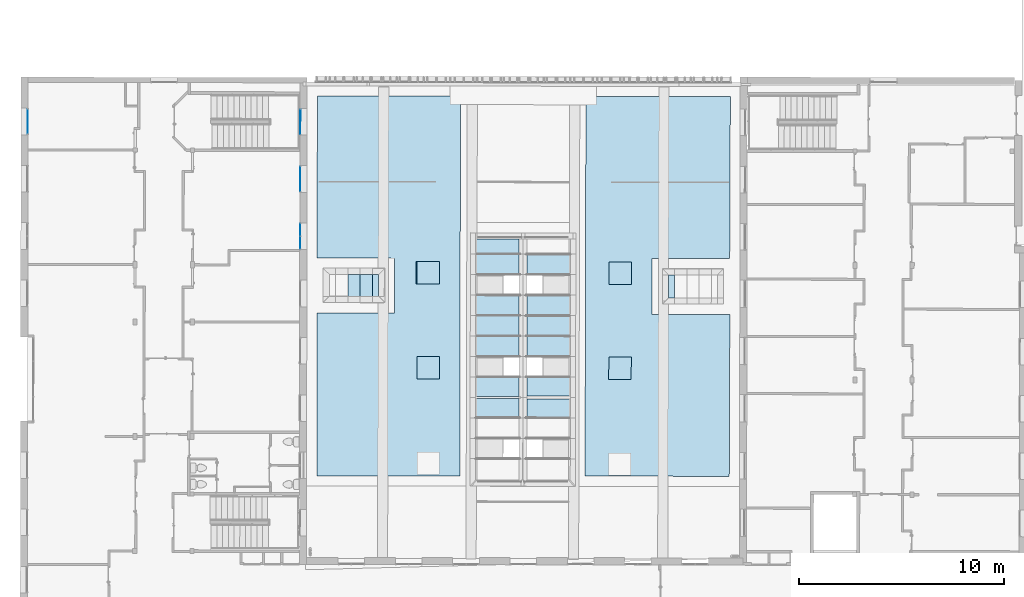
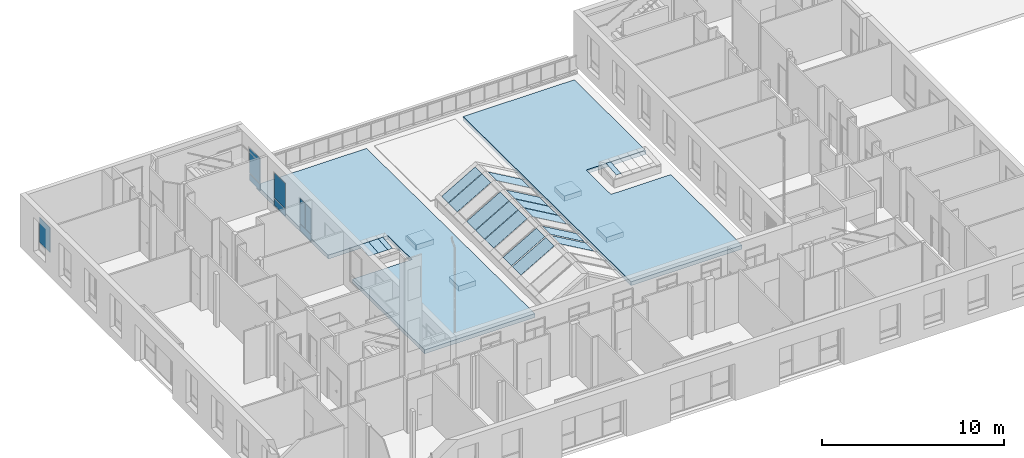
# One storey, part 36 of 101: 25 plates, 7 slabs, 14 elements without a shape of their own.
"""IFC2X3 building model written with IfcOpenShell, lengths in metres."""

import ifcopenshell
import ifcopenshell.guid

model = None  # the IFC model being written
_history = None  # IfcOwnerHistory: only IFC2X3 demands one
_inside = {}  # id of a spatial element -> (the spatial element, [elements in it])
_under = {}  # id of a project, library or spatial element -> (it, [spatial elements below it])
_declared = {}  # id of a project -> (the project, [libraries it declares])
_typed = {}  # id of a type object -> (the type object, [elements of that type])
_made_of = {}  # id of a material, layer set ... -> (it, [elements and type objects made of it])


def new_model(schema):
    """Start an empty IFC model of exactly this schema.

    Asked for "IFC4X3", IfcOpenShell would pick the latest addendum, in which some entities
    have other attributes; the version numbers below select the first issue.
    IFC2X3 requires an IfcOwnerHistory on every rooted entity: one is made here for all.
    """
    global model, _history
    if schema == "IFC4X3":
        model = ifcopenshell.file(schema_version=(4, 3, 0, 0))
    else:
        model = ifcopenshell.file(schema=schema)
    _inside.clear()
    _under.clear()
    _declared.clear()
    _typed.clear()
    _made_of.clear()
    _history = None
    if model.schema == "IFC2X3":
        org = make("IfcOrganization", Name="unknown")
        user = make(
            "IfcPersonAndOrganization",
            ThePerson=make("IfcPerson", FamilyName="unknown"),
            TheOrganization=org,
        )
        app = make(
            "IfcApplication",
            ApplicationDeveloper=org,
            Version="unknown",
            ApplicationFullName="unknown",
            ApplicationIdentifier="unknown",
        )
        _history = make(
            "IfcOwnerHistory",
            OwningUser=user,
            OwningApplication=app,
            ChangeAction="ADDED",
            CreationDate=0,
        )
    return model


def make(cls, **values):
    """One entity of the class cls with the attributes given. An attribute that is None is left unset."""
    return model.create_entity(
        cls, **{name: value for name, value in values.items() if value is not None}
    )


def entity(cls, *values):
    """Any entity or typed value of the class cls, its attributes in the order of the schema. None: left unset."""
    e = model.create_entity(cls)
    for i, value in enumerate(values):
        if value is not None:
            e[i] = value
    return e


def rooted(cls, **values):
    """An entity with a GlobalId (a new one), such as an element, a storey or a relation."""
    return make(cls, GlobalId=ifcopenshell.guid.new(), OwnerHistory=_history, **values)


def si_unit(unit_type, name, prefix=None):
    """IfcSIUnit, for example si_unit("LENGTHUNIT", "METRE", prefix="MILLI")."""
    return make("IfcSIUnit", UnitType=unit_type, Prefix=prefix, Name=name)


def converted_unit(unit_type, name, factor, base, dimensions=None, offset=None):
    """IfcConversionBasedUnit, such as the inch: factor (a typed value) times the base unit."""
    return make(
        "IfcConversionBasedUnit"
        if offset is None
        else "IfcConversionBasedUnitWithOffset",
        ConversionOffset=offset,
        Dimensions=None
        if dimensions is None
        else entity("IfcDimensionalExponents", *dimensions),
        UnitType=unit_type,
        Name=name,
        ConversionFactor=make(
            "IfcMeasureWithUnit", ValueComponent=factor, UnitComponent=base
        ),
    )


def derived_unit(unit_type, elements):
    """IfcDerivedUnit: a product of units, each with its exponent."""
    return make(
        "IfcDerivedUnit",
        Elements=[
            make("IfcDerivedUnitElement", Unit=unit, Exponent=power)
            for unit, power in elements
        ],
        UnitType=unit_type,
    )


def assignment(units):
    """IfcUnitAssignment: the units of a project."""
    return None if units is None else make("IfcUnitAssignment", Units=units)


def point(xyz):
    """IfcCartesianPoint."""
    return None if xyz is None else make("IfcCartesianPoint", Coordinates=xyz)


def direction(xyz):
    """IfcDirection."""
    return None if xyz is None else make("IfcDirection", DirectionRatios=xyz)


def frame(location, z_axis=None, x_axis=None):
    """IfcAxis2Placement3D, a coordinate frame: its origin and axes. An axis left out is left unset."""
    return make(
        "IfcAxis2Placement3D",
        Location=point(location),
        Axis=direction(z_axis),
        RefDirection=direction(x_axis),
    )


def frame_2d(location, x_axis=None):
    """IfcAxis2Placement2D, a coordinate frame in the plane: its origin and x axis."""
    return make(
        "IfcAxis2Placement2D", Location=point(location), RefDirection=direction(x_axis)
    )


def origin():
    """The frame at (0, 0, 0) with its axes left unset."""
    return frame((0.0, 0.0, 0.0))


def place(relative_to, where):
    """IfcLocalPlacement: puts the frame where relative to a parent placement (None: the world)."""
    return make(
        "IfcLocalPlacement", PlacementRelTo=relative_to, RelativePlacement=where
    )


def context(
    kind, dimensions, precision=None, world=None, true_north=None, identifier=None
):
    """IfcGeometricRepresentationContext, for example the 3D "Model" context."""
    return make(
        "IfcGeometricRepresentationContext",
        ContextIdentifier=identifier,
        ContextType=kind,
        CoordinateSpaceDimension=dimensions,
        Precision=precision,
        WorldCoordinateSystem=world,
        TrueNorth=true_north,
    )


def subcontext(parent, identifier, kind, view, scale=None):
    """IfcGeometricRepresentationSubContext, for example "Body" below "Model"."""
    return make(
        "IfcGeometricRepresentationSubContext",
        ContextIdentifier=identifier,
        ContextType=kind,
        ParentContext=parent,
        TargetScale=scale,
        TargetView=view,
    )


def project(units=None, contexts=None):
    """IfcProject with its units and contexts."""
    return rooted(
        "IfcProject",
        Name="project",
        RepresentationContexts=contexts,
        UnitsInContext=assignment(units),
    )


def spatial(cls, under=None, at=None, **own):
    """A site, building, storey or space (cls), placed at a placement, below another one or the project."""
    s = rooted(cls, ObjectPlacement=at, **own)
    if under is not None:
        _under.setdefault(under.id(), (under, []))[1].append(s)
    return s


def polyline(points):
    """IfcPolyline through the points."""
    return make("IfcPolyline", Points=[point(p) for p in points])


def profile(cls, at=None, kind="AREA", **sizes):
    """A parametric profile (cls). Its sizes go by their IFC names, for example OverallWidth=200.0."""
    return make(cls, ProfileType=kind, Position=at, **sizes)


def rectangle(**sizes):
    """IfcRectangleProfileDef."""
    return profile("IfcRectangleProfileDef", **sizes)


def outline(outer, holes=None, kind="AREA"):
    """IfcArbitraryClosedProfileDef: a profile drawn as a closed curve; with holes, ...WithVoids."""
    if holes is None:
        return make("IfcArbitraryClosedProfileDef", ProfileType=kind, OuterCurve=outer)
    return make(
        "IfcArbitraryProfileDefWithVoids",
        ProfileType=kind,
        OuterCurve=outer,
        InnerCurves=holes,
    )


def extrude(swept, where, along, depth):
    """IfcExtrudedAreaSolid: the profile swept, set in the frame where, extruded along a direction by depth."""
    return make(
        "IfcExtrudedAreaSolid",
        SweptArea=swept,
        Position=where,
        ExtrudedDirection=direction(along),
        Depth=depth,
    )


def shape(context_of_items, identifier, shape_type, items):
    """IfcShapeRepresentation: the items that make up one representation, for example the "Body"."""
    return make(
        "IfcShapeRepresentation",
        ContextOfItems=context_of_items,
        RepresentationIdentifier=identifier,
        RepresentationType=shape_type,
        Items=items,
    )


def source(mapping_origin, context_of_items, identifier, shape_type, items):
    """IfcRepresentationMap: a shape defined once, which mapped items show again and again."""
    return make(
        "IfcRepresentationMap",
        MappingOrigin=mapping_origin,
        MappedRepresentation=shape(context_of_items, identifier, shape_type, items),
    )


def transform(
    local_origin,
    x_axis=None,
    y_axis=None,
    z_axis=None,
    scale=None,
    scale2=None,
    scale3=None,
    uniform=True,
):
    """IfcCartesianTransformationOperator3D, or its non-uniform kind. x_axis, y_axis, z_axis: its Axis1, 2, 3."""
    if uniform:
        return make(
            "IfcCartesianTransformationOperator3D",
            Axis1=direction(x_axis),
            Axis2=direction(y_axis),
            LocalOrigin=point(local_origin),
            Scale=scale,
            Axis3=direction(z_axis),
        )
    return make(
        "IfcCartesianTransformationOperator3DnonUniform",
        Axis1=direction(x_axis),
        Axis2=direction(y_axis),
        LocalOrigin=point(local_origin),
        Scale=scale,
        Axis3=direction(z_axis),
        Scale2=scale2,
        Scale3=scale3,
    )


def mapped(mapping_source, mapping_target):
    """IfcMappedItem: shows the shape of a source again, moved by a transform."""
    return make(
        "IfcMappedItem", MappingSource=mapping_source, MappingTarget=mapping_target
    )


def material(Name=None, Category=None):
    """IfcMaterial."""
    return make("IfcMaterial", Name=Name, Category=Category)


def layer(
    of_material, thickness, ventilated=None, Name=None, Category=None, Priority=None
):
    """IfcMaterialLayer: one layer of a wall or slab, of a material (None: an air gap)."""
    return make(
        "IfcMaterialLayer",
        Material=of_material,
        LayerThickness=thickness,
        IsVentilated=ventilated,
        Name=Name,
        Category=Category,
        Priority=Priority,
    )


def layer_set(layers, Name=None):
    """IfcMaterialLayerSet."""
    return make("IfcMaterialLayerSet", MaterialLayers=layers, LayerSetName=Name)


def made_of(thing, what):
    """Note that an element or type object is made of a material, layer set ...; save() writes the relation."""
    if what is not None:
        _made_of.setdefault(what.id(), (what, []))[1].append(thing)
    return thing


def type_object(cls, material=None, **own):
    """A type object (cls), such as IfcWallType, which elements share."""
    return made_of(rooted(cls, **own), material)


def type_shapes(of_type, sources):
    """Give a type object the sources (RepresentationMaps) that its elements show as mapped items."""
    of_type.RepresentationMaps = sources


def element(
    cls,
    number,
    at=None,
    inside=None,
    cuts=None,
    type_object=None,
    material=None,
    context=None,
    identifier="Body",
    shape_type=None,
    held_by="IfcProductDefinitionShape",
    body=None,
    shapes=None,
    **own,
):
    """One element of the class cls, such as IfcWall. Its Tag is "e" and its number.

    at: its placement. inside: the storey or other place that contains it. cuts: it is an
    opening in that element (IfcRelVoidsElement). A single representation is given by context,
    identifier, shape_type and body (its items); several are given by shapes. held_by: the class
    of the entity that holds the representations. save() writes the other relations.
    """
    e = rooted(cls, Tag="e%d" % number, ObjectPlacement=at, **own)
    if body is not None:
        shapes = [shape(context, identifier, shape_type, body)]
    if shapes is not None:
        e.Representation = make(held_by, Representations=shapes)
    if inside is not None:
        _inside.setdefault(inside.id(), (inside, []))[1].append(e)
    if cuts is not None:
        rooted(
            "IfcRelVoidsElement", RelatingBuildingElement=cuts, RelatedOpeningElement=e
        )
    if type_object is not None:
        _typed.setdefault(type_object.id(), (type_object, []))[1].append(e)
    return made_of(e, material)


def aggregate(whole, parts):
    """IfcRelAggregates: a whole, such as a stair, and the parts it consists of."""
    return rooted("IfcRelAggregates", RelatingObject=whole, RelatedObjects=parts)


def save(model, path):
    """Write the relations noted so far, then the file.

    IfcRelAggregates (storeys below a building ...), IfcRelContainedInSpatialStructure (elements
    in a storey), IfcRelDefinesByType, IfcRelAssociatesMaterial and IfcRelDeclares: one each for
    every whole, place, type object, material and project.
    """
    for whole, parts in _under.values():
        aggregate(whole, parts)
    for where, things in _inside.values():
        rooted(
            "IfcRelContainedInSpatialStructure",
            RelatedElements=things,
            RelatingStructure=where,
        )
    for kind, things in _typed.values():
        rooted("IfcRelDefinesByType", RelatedObjects=things, RelatingType=kind)
    for what, things in _made_of.values():
        rooted("IfcRelAssociatesMaterial", RelatedObjects=things, RelatingMaterial=what)
    for by, libraries in _declared.values():
        rooted("IfcRelDeclares", RelatingContext=by, RelatedDefinitions=libraries)
    model.write(path)


model = new_model("IFC2X3")

# Units and contexts
model_context = context("Model", 3, precision=1e-05, world=origin(), true_north=direction((6.123233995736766e-17, 1.0)))
body_context = subcontext(model_context, "Body", "Model", "MODEL_VIEW")
ifc_project = project(units=[si_unit("LENGTHUNIT", "METRE"), si_unit("AREAUNIT", "SQUARE_METRE"), converted_unit("PLANEANGLEUNIT", "DEGREE", entity("IfcPlaneAngleMeasure", 0.017453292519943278), si_unit("PLANEANGLEUNIT", "RADIAN"), dimensions=[0, 0, 0, 0, 0, 0, 0]), derived_unit("THERMALTRANSMITTANCEUNIT", [(si_unit("MASSUNIT", "GRAM", prefix="KILO"), 1), (si_unit("THERMODYNAMICTEMPERATUREUNIT", "KELVIN"), -1), (si_unit("TIMEUNIT", "SECOND"), -3)])], contexts=[model_context])

# Site, building, storey
site_placement = place(None, frame((1253.6752467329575, 2072.143113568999, 91.49999999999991), z_axis=(0.0, 0.0, 1.0), x_axis=(0.7237211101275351, 0.6900925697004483, 0.0)))
site = spatial("IfcSite", under=ifc_project, at=site_placement, Name="Surface", CompositionType="ELEMENT")
building_placement = place(site_placement, origin())
building = spatial("IfcBuilding", under=site, at=building_placement, CompositionType="ELEMENT")
storey_placement = place(building_placement, origin())
storey = spatial("IfcBuildingStorey", under=building, at=storey_placement, Name="0- Rdc", CompositionType="ELEMENT", Elevation=-5.764692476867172e-13)

# Curtain wall, plate
curtain_wall_type_1 = type_object("IfcCurtainWallType", Name="Mur-rideau:Menuiserie Ext 1F+1OB VERTIC", PredefinedType="NOTDEFINED")
curtain_wall_1_placement = place(storey_placement, origin())
curtain_wall_1 = element("IfcCurtainWall", 1, at=curtain_wall_1_placement, inside=storey, type_object=curtain_wall_type_1, Name="Mur-rideau:Menuiserie Ext 1F+1OB VERTIC", ObjectType="Mur-rideau:Menuiserie Ext 1F+1OB VERTIC")
ifc_material_1 = material(Name="Verre")
ifc_layer_1 = layer(ifc_material_1, 0.01)
ifc_layer_set_1 = layer_set([ifc_layer_1], Name="Panneau système:Vitré")
plate_type_1 = type_object("IfcPlateType", Name="Panneau système:Vitré", PredefinedType="CURTAIN_PANEL", material=ifc_layer_set_1)
shared_shape_1 = source(origin(), body_context, "Body", "SweptSolid", [
    extrude(rectangle(XDim=0.01, YDim=1.199695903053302, at=frame_2d((0.0, -4.163336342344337e-15), x_axis=(1.0, 0.0))), frame((0.0, 0.0, 0.0), z_axis=(0.0, 0.0, 1.0), x_axis=(0.0, 1.0, 0.0)), (0.0, 0.0, 1.0), 1.6849999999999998),
])
type_shapes(plate_type_1, [shared_shape_1])
plate_1_placement = place(curtain_wall_1_placement, frame((164.91515937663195, 25.933899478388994, 1.1649999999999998), z_axis=(0.0, 0.0, 1.0), x_axis=(0.6911544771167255, 0.7227070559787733, 0.0)))
plate_1 = element("IfcPlate", 2, at=plate_1_placement, type_object=plate_type_1, material=ifc_material_1, Name="Panneau système:Vitré", ObjectType="Panneau système:Vitré", context=body_context, shape_type="MappedRepresentation", body=[
    mapped(shared_shape_1, transform((0.0, 0.0, 0.0), scale=1.0)),
])
aggregate(curtain_wall_1, [plate_1])

curtain_wall_2_placement = place(storey_placement, origin())
curtain_wall_2 = element("IfcCurtainWall", 3, at=curtain_wall_2_placement, inside=storey, type_object=curtain_wall_type_1, Name="Mur-rideau:Menuiserie Ext 1F+1OB VERTIC", ObjectType="Mur-rideau:Menuiserie Ext 1F+1OB VERTIC")
plate_type_2 = type_object("IfcPlateType", Name="Panneau système:Vitré", PredefinedType="CURTAIN_PANEL", material=ifc_layer_set_1)
shared_shape_2 = source(origin(), body_context, "Body", "SweptSolid", [
    extrude(rectangle(XDim=0.01, YDim=1.199695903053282, at=frame_2d((0.0, 4.163336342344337e-15), x_axis=(1.0, 0.0))), frame((0.0, 0.0, 0.0), z_axis=(0.0, 0.0, 1.0), x_axis=(0.0, 1.0, 0.0)), (0.0, 0.0, 1.0), 0.44499999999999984),
])
type_shapes(plate_type_2, [shared_shape_2])
plate_2_placement = place(curtain_wall_2_placement, frame((174.55687420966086, 16.717488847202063, 0.6699999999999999), z_axis=(0.0, 0.0, 1.0), x_axis=(0.6909838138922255, 0.722870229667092, 0.0)))
plate_2 = element("IfcPlate", 4, at=plate_2_placement, type_object=plate_type_2, material=ifc_material_1, Name="Panneau système:Vitré", ObjectType="Panneau système:Vitré", context=body_context, shape_type="MappedRepresentation", body=[
    mapped(shared_shape_2, transform((0.0, 0.0, 0.0), scale=1.0)),
])

curtain_wall_3_placement = place(storey_placement, origin())
curtain_wall_3 = element("IfcCurtainWall", 5, at=curtain_wall_3_placement, inside=storey, type_object=curtain_wall_type_1, Name="Mur-rideau:Menuiserie Ext 1F+1OB VERTIC", ObjectType="Mur-rideau:Menuiserie Ext 1F+1OB VERTIC")
plate_3_placement = place(curtain_wall_3_placement, frame((172.62485809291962, 14.696317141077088, 0.6699999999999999), z_axis=(0.0, 0.0, 1.0), x_axis=(0.6909838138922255, 0.722870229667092, 0.0)))
plate_3 = element("IfcPlate", 6, at=plate_3_placement, type_object=plate_type_2, material=ifc_material_1, Name="Panneau système:Vitré", ObjectType="Panneau système:Vitré", context=body_context, shape_type="MappedRepresentation", body=[
    mapped(shared_shape_2, transform((0.0, 0.0, 0.0), scale=1.0)),
])

# Plate
plate_type_3 = type_object("IfcPlateType", Name="Panneau système:Vitré", PredefinedType="CURTAIN_PANEL", material=ifc_layer_set_1)
shared_shape_3 = source(origin(), body_context, "Body", "SweptSolid", [
    extrude(rectangle(XDim=0.01, YDim=1.199695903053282, at=frame_2d((0.0, 4.163336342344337e-15), x_axis=(1.0, 0.0))), frame((0.0, 0.0, 0.0), z_axis=(0.0, 0.0, 1.0), x_axis=(0.0, 1.0, 0.0)), (0.0, 0.0, 1.0), 1.6849999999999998),
])
type_shapes(plate_type_3, [shared_shape_3])
plate_4_placement = place(curtain_wall_2_placement, frame((174.55687420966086, 16.717488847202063, 1.1649999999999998), z_axis=(0.0, 0.0, 1.0), x_axis=(0.6909838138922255, 0.722870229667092, 0.0)))
plate_4 = element("IfcPlate", 7, at=plate_4_placement, type_object=plate_type_3, material=ifc_material_1, Name="Panneau système:Vitré", ObjectType="Panneau système:Vitré", context=body_context, shape_type="MappedRepresentation", body=[
    mapped(shared_shape_3, transform((0.0, 0.0, 0.0), scale=1.0)),
])

aggregate(curtain_wall_2, [plate_2, plate_4])

plate_5_placement = place(curtain_wall_3_placement, frame((172.62485809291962, 14.696317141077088, 1.1649999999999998), z_axis=(0.0, 0.0, 1.0), x_axis=(0.6909838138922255, 0.722870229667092, 0.0)))
plate_5 = element("IfcPlate", 8, at=plate_5_placement, type_object=plate_type_3, material=ifc_material_1, Name="Panneau système:Vitré", ObjectType="Panneau système:Vitré", context=body_context, shape_type="MappedRepresentation", body=[
    mapped(shared_shape_3, transform((0.0, 0.0, 0.0), scale=1.0)),
])

aggregate(curtain_wall_3, [plate_3, plate_5])

# Curtain wall, plates
curtain_wall_4_placement = place(storey_placement, origin())
curtain_wall_4 = element("IfcCurtainWall", 9, at=curtain_wall_4_placement, inside=storey, type_object=curtain_wall_type_1, Name="Mur-rideau:Menuiserie Ext 1F+1OB VERTIC", ObjectType="Mur-rideau:Menuiserie Ext 1F+1OB VERTIC")
plate_type_4 = type_object("IfcPlateType", Name="Panneau système:Vitré", PredefinedType="CURTAIN_PANEL", material=ifc_layer_set_1)
shared_shape_4 = source(origin(), body_context, "Body", "SweptSolid", [
    extrude(rectangle(XDim=0.44499999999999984, YDim=1.199695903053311, at=frame_2d((0.0, -9.603429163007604e-15), x_axis=(1.0, 0.0))), frame((0.0, -0.004999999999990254, 0.22249999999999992), z_axis=(0.0, 1.0, 0.0), x_axis=(0.0, 0.0, 1.0)), (0.0, 0.0, 1.0), 0.01),
])
type_shapes(plate_type_4, [shared_shape_4])
plate_6_placement = place(curtain_wall_4_placement, frame((170.6901034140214, 12.672280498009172, 0.6699999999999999), z_axis=(0.0, 0.0, 1.0), x_axis=(0.6909838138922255, 0.722870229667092, 0.0)))
plate_6 = element("IfcPlate", 10, at=plate_6_placement, type_object=plate_type_4, material=ifc_material_1, Name="Panneau système:Vitré", ObjectType="Panneau système:Vitré", context=body_context, shape_type="MappedRepresentation", body=[
    mapped(shared_shape_4, transform((0.0, 0.0, 0.0), scale=1.0)),
])
plate_type_5 = type_object("IfcPlateType", Name="Panneau système:Vitré", PredefinedType="CURTAIN_PANEL", material=ifc_layer_set_1)
shared_shape_5 = source(origin(), body_context, "Body", "SweptSolid", [
    extrude(rectangle(XDim=0.01, YDim=0.574847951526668, at=frame_2d((0.0, 3.3029134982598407e-15), x_axis=(1.0, 0.0))), frame((0.0, 0.0, 0.0), z_axis=(0.0, 0.0, 1.0), x_axis=(0.0, 1.0, 0.0)), (0.0, 0.0, 1.0), 1.6849999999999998),
])
type_shapes(plate_type_5, [shared_shape_5])
plate_7_placement = place(curtain_wall_4_placement, frame((170.4742235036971, 12.446438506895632, 1.1649999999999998), z_axis=(0.0, 0.0, 1.0), x_axis=(0.6909838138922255, 0.722870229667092, 0.0)))
plate_7 = element("IfcPlate", 11, at=plate_7_placement, type_object=plate_type_5, material=ifc_material_1, Name="Panneau système:Vitré", ObjectType="Panneau système:Vitré", context=body_context, shape_type="MappedRepresentation", body=[
    mapped(shared_shape_5, transform((0.0, 0.0, 0.0), scale=1.0)),
])
plate_8_placement = place(curtain_wall_4_placement, frame((170.9059833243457, 12.898122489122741, 1.1649999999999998), z_axis=(0.0, 0.0, 1.0), x_axis=(0.6909838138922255, 0.722870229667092, 0.0)))
plate_8 = element("IfcPlate", 12, at=plate_8_placement, type_object=plate_type_5, material=ifc_material_1, Name="Panneau système:Vitré", ObjectType="Panneau système:Vitré", context=body_context, shape_type="MappedRepresentation", body=[
    mapped(shared_shape_5, transform((0.0, 0.0, 0.0), scale=1.0)),
])
aggregate(curtain_wall_4, [plate_6, plate_7, plate_8])

# Roof, slab
ifc_material_2 = material(Name="OMD tranche")
ifc_layer_2 = layer(ifc_material_2, 0.35)
ifc_layer_set_2 = layer_set([ifc_layer_2], Name="Toit de base:toit terrasse 35")
roof_1_placement = place(storey_placement, frame((173.16801094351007, 6.319692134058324, -0.8818948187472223)))
roof_1 = element("IfcRoof", 13, at=roof_1_placement, inside=storey, material=ifc_layer_set_2, Name="Toit de base:toit terrasse 35", ObjectType="Toit de base:toit terrasse 35", ShapeType="NOTDEFINED")
type_product_1 = type_object("IfcTypeProduct", Name="Toit de base:toit terrasse 35")
slab_1_placement = place(roof_1_placement, origin())
slab_1 = element("IfcSlab", 14, at=slab_1_placement, type_object=type_product_1, material=ifc_layer_set_2, Name="Toit de base:toit terrasse 35", ObjectType="Toit de base:toit terrasse 35", PredefinedType="ROOF", context=body_context, shape_type="SweptSolid", body=[
    extrude(rectangle(XDim=1.100000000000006, YDim=1.099961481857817, at=frame_2d((0.0, 1.0824674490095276e-15), x_axis=(-0.7225099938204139, 0.6913604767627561))), frame((0.7776007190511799, 0.7775994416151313, 0.00489541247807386), z_axis=(0.006153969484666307, 0.006430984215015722, 0.9999603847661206), x_axis=(0.9999810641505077, -3.95768300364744e-05, -0.006153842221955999)), (-0.006153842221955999, -0.006431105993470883, 0.9999603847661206), 0.3500138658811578),
])
aggregate(roof_1, [slab_1])

roof_2_placement = place(storey_placement, frame((170.00112637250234, 2.918495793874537, -0.8405312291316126)))
roof_2 = element("IfcRoof", 15, at=roof_2_placement, inside=storey, material=ifc_layer_set_2, Name="Toit de base:toit terrasse 35", ObjectType="Toit de base:toit terrasse 35", ShapeType="NOTDEFINED")
slab_2_placement = place(roof_2_placement, origin())
slab_2 = element("IfcSlab", 16, at=slab_2_placement, type_object=type_product_1, material=ifc_layer_set_2, Name="Toit de base:toit terrasse 35", ObjectType="Toit de base:toit terrasse 35", PredefinedType="ROOF", context=body_context, shape_type="SweptSolid", body=[
    extrude(rectangle(XDim=1.0999999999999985, YDim=1.09996148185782, at=frame_2d((0.0, 3.788636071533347e-15), x_axis=(-0.7225099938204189, 0.6913604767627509))), frame((0.7776007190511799, 0.7775994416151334, 0.00489541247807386), z_axis=(0.006153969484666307, 0.006430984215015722, 0.9999603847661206), x_axis=(0.9999810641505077, -3.95768300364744e-05, -0.006153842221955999)), (-0.006153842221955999, -0.006431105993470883, 0.9999603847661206), 0.35001386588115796),
])
aggregate(roof_2, [slab_2])

roof_3_placement = place(storey_placement, frame((176.77571670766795, -3.5639370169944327, -0.8405312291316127)))
roof_3 = element("IfcRoof", 17, at=roof_3_placement, inside=storey, material=ifc_layer_set_2, Name="Toit de base:toit terrasse 35", ObjectType="Toit de base:toit terrasse 35", ShapeType="NOTDEFINED")
slab_3_placement = place(roof_3_placement, origin())
slab_3 = element("IfcSlab", 18, at=slab_3_placement, type_object=type_product_1, material=ifc_layer_set_2, Name="Toit de base:toit terrasse 35", ObjectType="Toit de base:toit terrasse 35", PredefinedType="ROOF", context=body_context, shape_type="SweptSolid", body=[
    extrude(rectangle(XDim=1.1000000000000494, YDim=1.0999614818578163, at=frame_2d((-1.7319479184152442e-14, 1.8943180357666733e-15), x_axis=(-0.722509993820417, 0.6913604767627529))), frame((0.7776007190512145, 0.7775994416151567, 0.004895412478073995), z_axis=(0.006153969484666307, 0.006430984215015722, 0.9999603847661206), x_axis=(0.9999810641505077, -3.95768300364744e-05, -0.006153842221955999)), (-0.006153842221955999, -0.006431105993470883, 0.9999603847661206), 0.35001386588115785),
])
aggregate(roof_3, [slab_3])

roof_4_placement = place(storey_placement, frame((173.21199039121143, 6.277607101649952, -0.8818948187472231)))
roof_4 = element("IfcRoof", 19, at=roof_4_placement, inside=storey, material=ifc_layer_set_2, Name="Toit de base:toit terrasse 35", ObjectType="Toit de base:toit terrasse 35", ShapeType="NOTDEFINED")
slab_4_placement = place(roof_4_placement, origin())
slab_4 = element("IfcSlab", 20, at=slab_4_placement, type_object=type_product_1, material=ifc_layer_set_2, Name="Toit de base:toit terrasse 35", ObjectType="Toit de base:toit terrasse 35", PredefinedType="ROOF", context=body_context, shape_type="SweptSolid", body=[
    extrude(rectangle(XDim=1.0999999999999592, YDim=1.099966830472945, at=frame_2d((0.0, 3.2491370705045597e-15), x_axis=(-0.7225099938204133, 0.6913604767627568))), frame((0.7776025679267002, 0.7776013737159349, 0.004895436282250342), z_axis=(0.006153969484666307, 0.006430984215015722, 0.9999603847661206), x_axis=(0.9999810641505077, -3.95768300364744e-05, -0.006153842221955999)), (-0.006153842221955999, -0.006431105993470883, 0.9999603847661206), 0.35001386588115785),
])
aggregate(roof_4, [slab_4])

roof_5_placement = place(storey_placement, frame((179.98676675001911, -0.20358256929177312, -0.8819061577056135)))
roof_5 = element("IfcRoof", 21, at=roof_5_placement, inside=storey, material=ifc_layer_set_2, Name="Toit de base:toit terrasse 35", ObjectType="Toit de base:toit terrasse 35", ShapeType="NOTDEFINED")
slab_5_placement = place(roof_5_placement, origin())
slab_5 = element("IfcSlab", 22, at=slab_5_placement, type_object=type_product_1, material=ifc_layer_set_2, Name="Toit de base:toit terrasse 35", ObjectType="Toit de base:toit terrasse 35", PredefinedType="ROOF", context=body_context, shape_type="SweptSolid", body=[
    extrude(rectangle(XDim=1.1000000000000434, YDim=1.0999614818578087, at=frame_2d((0.0, -1.1574075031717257e-14), x_axis=(-0.7225099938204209, 0.6913604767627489))), frame((0.7776007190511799, 0.7775994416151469, 0.004895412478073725), z_axis=(0.006153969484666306, 0.006430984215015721, 0.9999603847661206), x_axis=(0.9999810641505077, -3.957683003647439e-05, -0.006153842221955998)), (-0.006153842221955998, -0.006431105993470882, 0.9999603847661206), 0.35001386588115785),
])
aggregate(roof_5, [slab_5])

ifc_material_3 = material(Name="OMD _toiture végétalisée")
ifc_layer_3 = layer(ifc_material_3, 0.05)
ifc_material_4 = material(Name="OMD_couche drainante")
ifc_layer_4 = layer(ifc_material_4, 0.05)
ifc_material_5 = material(Name="Maçonnerie - Isolant")
ifc_layer_5 = layer(ifc_material_5, 0.16)
ifc_layer_set_3 = layer_set([ifc_layer_3, ifc_layer_4, ifc_layer_5], Name="Toit de base:Toit végétalisée")
roof_6_placement = place(storey_placement, frame((172.67394702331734, -10.298868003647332, -0.6043985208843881)))
roof_6 = element("IfcRoof", 23, at=roof_6_placement, inside=storey, material=ifc_layer_set_3, Name="Toit de base:Toit végétalisée", ObjectType="Toit de base:Toit végétalisée", ShapeType="NOTDEFINED")
type_product_2 = type_object("IfcTypeProduct", Name="Toit de base:Toit végétalisée")
slab_6_placement = place(roof_6_placement, origin())
slab_6 = element("IfcSlab", 24, at=slab_6_placement, type_object=type_product_2, material=ifc_layer_set_3, Name="Toit de base:Toit végétalisée", ObjectType="Toit de base:Toit végétalisée", PredefinedType="ROOF", context=body_context, shape_type="SweptSolid", body=[
    extrude(outline(polyline([(-3.8788356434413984, -9.13698822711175), (1.6069051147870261, -3.4290868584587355), (-1.1401699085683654, -0.8024474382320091), (0.7452910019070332, 1.169464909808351), (3.4831132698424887, -1.4499614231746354), (8.975739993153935, 4.26510563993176), (3.8694446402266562, 9.145964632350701), (-8.975739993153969, -4.26510563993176), (-3.8788356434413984, -9.13698822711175)])), frame((8.975570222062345, 9.1366455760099, 0.08264759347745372), z_axis=(0.006150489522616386, 0.0064343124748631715, 0.9999603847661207), x_axis=(0.9999810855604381, -3.957491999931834e-05, -0.006150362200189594)), (-0.006150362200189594, -0.0064344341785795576, 0.9999603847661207), 0.26001030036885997),
])
aggregate(roof_6, [slab_6])

roof_7_placement = place(storey_placement, frame((163.1939232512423, -1.2000147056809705, -0.6043985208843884)))
roof_7 = element("IfcRoof", 25, at=roof_7_placement, inside=storey, material=ifc_layer_set_3, Name="Toit de base:Toit végétalisée", ObjectType="Toit de base:Toit végétalisée", ShapeType="NOTDEFINED")
slab_7_placement = place(roof_7_placement, origin())
slab_7 = element("IfcSlab", 26, at=slab_7_placement, type_object=type_product_2, material=ifc_layer_set_3, Name="Toit de base:Toit végétalisée", ObjectType="Toit de base:Toit végétalisée", PredefinedType="ROOF", context=body_context, shape_type="SweptSolid", body=[
    extrude(outline(polyline([(-3.8866504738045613, -9.12951841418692), (8.944845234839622, 4.294636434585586), (3.8866504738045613, 9.129518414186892), (-1.588945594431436, 3.4010163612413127), (1.145022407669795, 0.7841542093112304), (-0.7066273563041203, -1.1503579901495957), (-3.4410619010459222, 1.4633547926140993), (-8.944845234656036, -4.294636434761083), (-3.8866504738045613, -9.12951841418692)])), frame((8.944676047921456, 9.129175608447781, 0.08264759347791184), z_axis=(0.00615048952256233, 0.006434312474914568, 0.9999603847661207), x_axis=(0.9999810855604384, -3.9574919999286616e-05, -0.006150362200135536)), (-0.006150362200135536, -0.006434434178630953, 0.9999603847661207), 0.26001030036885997),
])
aggregate(roof_7, [slab_7])

# Roof, plates
curtain_wall_type_2 = type_object("IfcCurtainWallType", Name="Vitres inclinées:Toit en verre 1 m x 2 m", PredefinedType="NOTDEFINED")
roof_8_placement = place(storey_placement, origin())
roof_8 = element("IfcRoof", 27, at=roof_8_placement, inside=storey, type_object=curtain_wall_type_2, Name="Vitres inclinées:Toit en verre 1 m x 2 m", ObjectType="Vitres inclinées:Toit en verre 1 m x 2 m", ShapeType="NOTDEFINED")
plate_type_6 = type_object("IfcPlateType", Name="Panneau système:Vitré", PredefinedType="CURTAIN_PANEL", material=ifc_layer_set_1)
shared_shape_6 = source(origin(), body_context, "Body", "SweptSolid", [
    extrude(outline(polyline([(-0.5426352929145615, -0.3017811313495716), (0.5426777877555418, -0.3017811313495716), (0.5425927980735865, 0.3017811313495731), (-0.5426352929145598, 0.30178113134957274), (-0.5426352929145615, -0.3017811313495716)])), frame((0.0, -0.00500000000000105, 0.5426352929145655), z_axis=(0.0, 1.0, 0.0), x_axis=(0.0, 0.0, 1.0)), (0.0, 0.0, 1.0), 0.01),
])
type_shapes(plate_type_6, [shared_shape_6])
plate_9_placement = place(roof_8_placement, frame((170.56181620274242, 8.729592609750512, 0.2709464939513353), z_axis=(0.6883547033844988, 0.7201192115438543, 0.08715574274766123), x_axis=(0.7228699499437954, -0.6909841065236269, 0.0)))
plate_9 = element("IfcPlate", 28, at=plate_9_placement, type_object=plate_type_6, material=ifc_material_1, Name="Panneau système:Vitré", ObjectType="Panneau système:Vitré", context=body_context, shape_type="MappedRepresentation", body=[
    mapped(shared_shape_6, transform((0.0, 0.0, 0.0), scale=1.0)),
])
plate_type_7 = type_object("IfcPlateType", Name="Panneau système:Vitré", PredefinedType="CURTAIN_PANEL", material=ifc_layer_set_1)
shared_shape_7 = source(origin(), body_context, "Body", "SweptSolid", [
    extrude(outline(polyline([(-0.5425503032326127, -0.3017811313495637), (0.5425927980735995, -0.3017811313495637), (0.542507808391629, 0.3017811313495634), (-0.5425503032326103, 0.3017811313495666), (-0.5425503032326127, -0.3017811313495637)])), frame((0.0, -0.005000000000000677, 0.542550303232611), z_axis=(0.0, 1.0, 0.0), x_axis=(0.0, 0.0, 1.0)), (0.0, 0.0, 1.0), 0.01),
])
type_shapes(plate_type_7, [shared_shape_7])
plate_10_placement = place(roof_8_placement, frame((170.99811322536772, 8.312540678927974, 0.2709464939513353), z_axis=(0.6883547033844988, 0.7201192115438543, 0.08715574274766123), x_axis=(0.7228699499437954, -0.6909841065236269, 0.0)))
plate_10 = element("IfcPlate", 29, at=plate_10_placement, type_object=plate_type_7, material=ifc_material_1, Name="Panneau système:Vitré", ObjectType="Panneau système:Vitré", context=body_context, shape_type="MappedRepresentation", body=[
    mapped(shared_shape_7, transform((0.0, 0.0, 0.0), scale=1.0)),
])
plate_type_8 = type_object("IfcPlateType", Name="Panneau système:Vitré", PredefinedType="CURTAIN_PANEL", material=ifc_layer_set_1)
shared_shape_8 = source(origin(), body_context, "Body", "SweptSolid", [
    extrude(outline(polyline([(-0.5425183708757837, -0.15172226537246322), (0.542539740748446, -0.15172226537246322), (0.5424970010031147, 0.1517980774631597), (-0.5425183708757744, 0.15164645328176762), (-0.5425183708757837, -0.15172226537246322)])), frame((-3.790604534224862e-05, -0.004999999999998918, 0.5425183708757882), z_axis=(0.0, 1.0, 0.0), x_axis=(0.0, 0.0, 1.0)), (0.0, 0.0, 1.0), 0.01),
])
type_shapes(plate_type_8, [shared_shape_8])
plate_11_placement = place(roof_8_placement, frame((171.32596460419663, 7.999150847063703, 0.2709464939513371), z_axis=(0.6883547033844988, 0.7201192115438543, 0.08715574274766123), x_axis=(0.7228699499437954, -0.6909841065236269, 0.0)))
plate_11 = element("IfcPlate", 30, at=plate_11_placement, type_object=plate_type_8, material=ifc_material_1, Name="Panneau système:Vitré", ObjectType="Panneau système:Vitré", context=body_context, shape_type="MappedRepresentation", body=[
    mapped(shared_shape_8, transform((0.0, 0.0, 0.0), scale=1.0)),
])
aggregate(roof_8, [plate_9, plate_10, plate_11])

# Roof, plate
roof_9_placement = place(storey_placement, origin())
roof_9 = element("IfcRoof", 31, at=roof_9_placement, inside=storey, type_object=curtain_wall_type_2, Name="Vitres inclinées:Toit en verre 1 m x 2 m", ObjectType="Vitres inclinées:Toit en verre 1 m x 2 m", ShapeType="NOTDEFINED")
plate_type_9 = type_object("IfcPlateType", Name="Panneau système:Vitré", PredefinedType="CURTAIN_PANEL", material=ifc_layer_set_1)
shared_shape_9 = source(origin(), body_context, "Body", "SweptSolid", [
    extrude(outline(polyline([(-0.5672817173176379, -0.1484882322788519), (0.5672300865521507, -0.1484882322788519), (0.5672292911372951, 0.14828962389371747), (-0.5671776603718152, 0.1486868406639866), (-0.5672817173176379, -0.1484882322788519)])), frame((9.931336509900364e-05, -0.004999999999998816, 0.5672296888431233), z_axis=(0.0, 1.0, 0.0), x_axis=(0.00035015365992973, 0.0, 0.9999999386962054)), (0.0, 0.0, 1.0), 0.009999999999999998),
])
type_shapes(plate_type_9, [shared_shape_9])
plate_12_placement = place(roof_9_placement, frame((181.74680135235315, -2.042758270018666, 0.28594649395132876), z_axis=(0.6883544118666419, 0.7201194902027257, 0.08715574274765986), x_axis=(0.7228702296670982, -0.6909838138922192, 0.0)))
plate_12 = element("IfcPlate", 32, at=plate_12_placement, type_object=plate_type_9, material=ifc_material_1, Name="Panneau système:Vitré", ObjectType="Panneau système:Vitré", context=body_context, shape_type="MappedRepresentation", body=[
    mapped(shared_shape_9, transform((0.0, 0.0, 0.0), scale=1.0)),
])
aggregate(roof_9, [plate_12])

# Roof, plates
roof_10_placement = place(storey_placement, origin())
roof_10 = element("IfcRoof", 33, at=roof_10_placement, inside=storey, type_object=curtain_wall_type_2, Name="Vitres inclinées:Toit en verre 1 m x 2 m", ObjectType="Vitres inclinées:Toit en verre 1 m x 2 m", ShapeType="NOTDEFINED")
plate_type_10 = type_object("IfcPlateType", Name="Panneau système:Vitré", PredefinedType="CURTAIN_PANEL", material=ifc_layer_set_1)
shared_shape_10 = source(origin(), body_context, "Body", "SweptSolid", [
    extrude(rectangle(XDim=0.01, YDim=0.7227509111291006, at=frame_2d((0.0, -2.581268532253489e-15), x_axis=(1.0, 0.0))), frame((0.0, 0.0, 0.0), z_axis=(0.0, 0.0, 1.0), x_axis=(0.0, 1.0, 0.0)), (0.0, 0.0, 1.0), 2.452048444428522),
])
type_shapes(plate_type_10, [shared_shape_10])
plate_13_placement = place(roof_10_placement, frame((176.5632244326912, 6.395116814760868, 0.39589942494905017), z_axis=(0.6260239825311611, -0.5984095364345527, 0.5000000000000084), x_axis=(-0.6909838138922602, -0.722870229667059, 0.0)))
plate_13 = element("IfcPlate", 34, at=plate_13_placement, type_object=plate_type_10, material=ifc_material_1, Name="Panneau système:Vitré", ObjectType="Panneau système:Vitré", context=body_context, shape_type="MappedRepresentation", body=[
    mapped(shared_shape_10, transform((0.0, 0.0, 0.0), scale=1.0)),
])
plate_type_11 = type_object("IfcPlateType", Name="Panneau système:Vitré", PredefinedType="CURTAIN_PANEL", material=ifc_layer_set_1)
shared_shape_11 = source(origin(), body_context, "Body", "SweptSolid", [
    extrude(rectangle(XDim=0.01, YDim=0.9623700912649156, at=frame_2d((0.0, -1.4988010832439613e-15), x_axis=(1.0, 0.0))), frame((0.0, 0.0, 0.0), z_axis=(0.0, 0.0, 1.0), x_axis=(0.0, 1.0, 0.0)), (0.0, 0.0, 1.0), 2.4520484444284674),
])
type_shapes(plate_type_11, [shared_shape_11])
plate_14_placement = place(roof_10_placement, frame((175.95504777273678, 5.758874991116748, 0.39589942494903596), z_axis=(0.6260239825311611, -0.5984095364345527, 0.5000000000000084), x_axis=(-0.6909838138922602, -0.722870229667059, 0.0)))
plate_14 = element("IfcPlate", 35, at=plate_14_placement, type_object=plate_type_11, material=ifc_material_1, Name="Panneau système:Vitré", ObjectType="Panneau système:Vitré", context=body_context, shape_type="MappedRepresentation", body=[
    mapped(shared_shape_11, transform((0.0, 0.0, 0.0), scale=1.0)),
])
plate_15_placement = place(roof_10_placement, frame((173.18610322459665, 2.8621536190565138, 0.39589942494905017), z_axis=(0.6260239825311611, -0.5984095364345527, 0.5000000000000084), x_axis=(-0.6909838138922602, -0.722870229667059, 0.0)))
plate_15 = element("IfcPlate", 36, at=plate_15_placement, type_object=plate_type_11, material=ifc_material_1, Name="Panneau système:Vitré", ObjectType="Panneau système:Vitré", context=body_context, shape_type="MappedRepresentation", body=[
    mapped(shared_shape_11, transform((0.0, 0.0, 0.0), scale=1.0)),
])
plate_16_placement = place(roof_10_placement, frame((176.53163604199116, -0.33580492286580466, 0.3958994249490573), z_axis=(-0.6260239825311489, 0.5984095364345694, 0.5000000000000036), x_axis=(0.6909838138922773, 0.7228702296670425, 0.0)))
plate_16 = element("IfcPlate", 37, at=plate_16_placement, type_object=plate_type_11, material=ifc_material_1, Name="Panneau système:Vitré", ObjectType="Panneau système:Vitré", context=body_context, shape_type="MappedRepresentation", body=[
    mapped(shared_shape_11, transform((0.0, 0.0, 0.0), scale=1.0)),
])
plate_17_placement = place(roof_10_placement, frame((179.30058059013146, 2.560916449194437, 0.39589942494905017), z_axis=(-0.6260239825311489, 0.5984095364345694, 0.5000000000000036), x_axis=(0.6909838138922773, 0.7228702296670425, 0.0)))
plate_17 = element("IfcPlate", 38, at=plate_17_placement, type_object=plate_type_11, material=ifc_material_1, Name="Panneau système:Vitré", ObjectType="Panneau système:Vitré", context=body_context, shape_type="MappedRepresentation", body=[
    mapped(shared_shape_11, transform((0.0, 0.0, 0.0), scale=1.0)),
])
plate_type_12 = type_object("IfcPlateType", Name="Panneau système:Vitré", PredefinedType="CURTAIN_PANEL", material=ifc_layer_set_1)
shared_shape_12 = source(origin(), body_context, "Body", "SweptSolid", [
    extrude(rectangle(XDim=0.01, YDim=0.9624299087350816, at=frame_2d((0.0, -5.551115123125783e-15), x_axis=(1.0, 0.0))), frame((0.0, 0.0, 0.0), z_axis=(0.0, 0.0, 1.0), x_axis=(0.0, 1.0, 0.0)), (0.0, 0.0, 1.0), 2.452048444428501),
])
type_shapes(plate_type_12, [shared_shape_12])
plate_18_placement = place(roof_10_placement, frame((174.56807085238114, 4.307894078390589, 0.39589942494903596), z_axis=(0.6260239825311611, -0.5984095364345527, 0.5000000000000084), x_axis=(-0.6909838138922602, -0.722870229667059, 0.0)))
plate_18 = element("IfcPlate", 39, at=plate_18_placement, type_object=plate_type_12, material=ifc_material_1, Name="Panneau système:Vitré", ObjectType="Panneau système:Vitré", context=body_context, shape_type="MappedRepresentation", body=[
    mapped(shared_shape_12, transform((0.0, 0.0, 0.0), scale=1.0)),
])
plate_19_placement = place(roof_10_placement, frame((177.91360366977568, 1.1099355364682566, 0.39589942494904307), z_axis=(-0.6260239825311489, 0.5984095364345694, 0.5000000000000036), x_axis=(0.6909838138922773, 0.7228702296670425, 0.0)))
plate_19 = element("IfcPlate", 40, at=plate_19_placement, type_object=plate_type_12, material=ifc_material_1, Name="Panneau système:Vitré", ObjectType="Panneau système:Vitré", context=body_context, shape_type="MappedRepresentation", body=[
    mapped(shared_shape_12, transform((0.0, 0.0, 0.0), scale=1.0)),
])
plate_type_13 = type_object("IfcPlateType", Name="Panneau système:Vitré", PredefinedType="CURTAIN_PANEL", material=ifc_layer_set_1)
shared_shape_13 = source(origin(), body_context, "Body", "SweptSolid", [
    extrude(rectangle(XDim=0.01, YDim=0.9624000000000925, at=frame_2d((0.0, -2.6367796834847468e-15), x_axis=(1.0, 0.0))), frame((0.0, 0.0, 0.0), z_axis=(0.0, 0.0, 1.0), x_axis=(0.0, 1.0, 0.0)), (0.0, 0.0, 1.0), 2.452048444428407),
])
type_shapes(plate_type_13, [shared_shape_13])
plate_20_placement = place(roof_10_placement, frame((173.87707670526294, 3.585013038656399, 0.39589942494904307), z_axis=(0.6260239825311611, -0.5984095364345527, 0.5000000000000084), x_axis=(-0.6909838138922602, -0.722870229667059, 0.0)))
plate_20 = element("IfcPlate", 41, at=plate_20_placement, type_object=plate_type_13, material=ifc_material_1, Name="Panneau système:Vitré", ObjectType="Panneau système:Vitré", context=body_context, shape_type="MappedRepresentation", body=[
    mapped(shared_shape_13, transform((0.0, 0.0, 0.0), scale=1.0)),
])
plate_21_placement = place(roof_10_placement, frame((177.22260952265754, 0.3870544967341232, 0.39589942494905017), z_axis=(-0.6260239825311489, 0.5984095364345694, 0.5000000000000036), x_axis=(0.6909838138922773, 0.7228702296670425, 0.0)))
plate_21 = element("IfcPlate", 42, at=plate_21_placement, type_object=plate_type_13, material=ifc_material_1, Name="Panneau système:Vitré", ObjectType="Panneau système:Vitré", context=body_context, shape_type="MappedRepresentation", body=[
    mapped(shared_shape_13, transform((0.0, 0.0, 0.0), scale=1.0)),
])
plate_type_14 = type_object("IfcPlateType", Name="Panneau système:Vitré", PredefinedType="CURTAIN_PANEL", material=ifc_layer_set_1)
shared_shape_14 = source(origin(), body_context, "Body", "SweptSolid", [
    extrude(rectangle(XDim=0.01, YDim=0.9312299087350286, at=frame_2d((0.0, 2.55351295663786e-15), x_axis=(1.0, 0.0))), frame((0.0, 0.0, 0.0), z_axis=(0.0, 0.0, 1.0), x_axis=(0.0, 1.0, 0.0)), (0.0, 0.0, 1.0), 2.4520484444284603),
])
type_shapes(plate_type_14, [shared_shape_14])
plate_22_placement = place(roof_10_placement, frame((171.81491494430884, 1.4276899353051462, 0.39589942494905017), z_axis=(0.6260239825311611, -0.5984095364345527, 0.5000000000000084), x_axis=(-0.6909838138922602, -0.722870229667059, 0.0)))
plate_22 = element("IfcPlate", 43, at=plate_22_placement, type_object=plate_type_14, material=ifc_material_1, Name="Panneau système:Vitré", ObjectType="Panneau système:Vitré", context=body_context, shape_type="MappedRepresentation", body=[
    mapped(shared_shape_14, transform((0.0, 0.0, 0.0), scale=1.0)),
])
plate_type_15 = type_object("IfcPlateType", Name="Panneau système:Vitré", PredefinedType="CURTAIN_PANEL", material=ifc_layer_set_1)
shared_shape_15 = source(origin(), body_context, "Body", "SweptSolid", [
    extrude(rectangle(XDim=0.01, YDim=0.9312000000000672, at=frame_2d((0.0, -3.6637359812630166e-15), x_axis=(1.0, 0.0))), frame((0.0, 0.0, 0.0), z_axis=(0.0, 0.0, 1.0), x_axis=(0.0, 1.0, 0.0)), (0.0, 0.0, 1.0), 2.452048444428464),
])
type_shapes(plate_type_15, [shared_shape_15])
plate_23_placement = place(roof_10_placement, frame((171.10236210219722, 0.6822553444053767, 0.39589942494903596), z_axis=(0.6260239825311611, -0.5984095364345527, 0.5000000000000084), x_axis=(-0.6909838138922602, -0.722870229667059, 0.0)))
plate_23 = element("IfcPlate", 44, at=plate_23_placement, type_object=plate_type_15, material=ifc_material_1, Name="Panneau système:Vitré", ObjectType="Panneau système:Vitré", context=body_context, shape_type="MappedRepresentation", body=[
    mapped(shared_shape_15, transform((0.0, 0.0, 0.0), scale=1.0)),
])
plate_type_16 = type_object("IfcPlateType", Name="Panneau système:Vitré", PredefinedType="CURTAIN_PANEL", material=ifc_layer_set_1)
shared_shape_16 = source(origin(), body_context, "Body", "SweptSolid", [
    extrude(rectangle(XDim=0.01, YDim=0.9061999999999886, at=frame_2d((0.0, -4.6629367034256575e-15), x_axis=(1.0, 0.0))), frame((0.0, 0.0, 0.0), z_axis=(0.0, 0.0, 1.0), x_axis=(0.0, 1.0, 0.0)), (0.0, 0.0, 1.0), 2.452048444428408),
])
type_shapes(plate_type_16, [shared_shape_16])
plate_24_placement = place(roof_10_placement, frame((174.43925762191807, -2.5247390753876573, 0.39589942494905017), z_axis=(-0.6260239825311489, 0.5984095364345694, 0.5000000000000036), x_axis=(0.6909838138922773, 0.7228702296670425, 0.0)))
plate_24 = element("IfcPlate", 45, at=plate_24_placement, type_object=plate_type_16, material=ifc_material_1, Name="Panneau système:Vitré", ObjectType="Panneau système:Vitré", context=body_context, shape_type="MappedRepresentation", body=[
    mapped(shared_shape_16, transform((0.0, 0.0, 0.0), scale=1.0)),
])
plate_type_17 = type_object("IfcPlateType", Name="Panneau système:Vitré", PredefinedType="CURTAIN_PANEL", material=ifc_layer_set_1)
shared_shape_17 = source(origin(), body_context, "Body", "SweptSolid", [
    extrude(rectangle(XDim=0.01, YDim=0.9062299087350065, at=frame_2d((0.0, 1.0824674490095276e-15), x_axis=(1.0, 0.0))), frame((0.0, 0.0, 0.0), z_axis=(0.0, 0.0, 1.0), x_axis=(0.0, 1.0, 0.0)), (0.0, 0.0, 1.0), 2.452048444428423),
])
type_shapes(plate_type_17, [shared_shape_17])
plate_25_placement = place(roof_10_placement, frame((175.16908505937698, -1.7612327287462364, 0.39589942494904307), z_axis=(-0.6260239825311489, 0.5984095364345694, 0.5000000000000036), x_axis=(0.6909838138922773, 0.7228702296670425, 0.0)))
plate_25 = element("IfcPlate", 46, at=plate_25_placement, type_object=plate_type_17, material=ifc_material_1, Name="Panneau système:Vitré", ObjectType="Panneau système:Vitré", context=body_context, shape_type="MappedRepresentation", body=[
    mapped(shared_shape_17, transform((0.0, 0.0, 0.0), scale=1.0)),
])
aggregate(roof_10, [plate_13, plate_14, plate_18, plate_20, plate_15, plate_22, plate_23, plate_24, plate_25, plate_16, plate_21, plate_19, plate_17])

save(model, "model.ifc")
